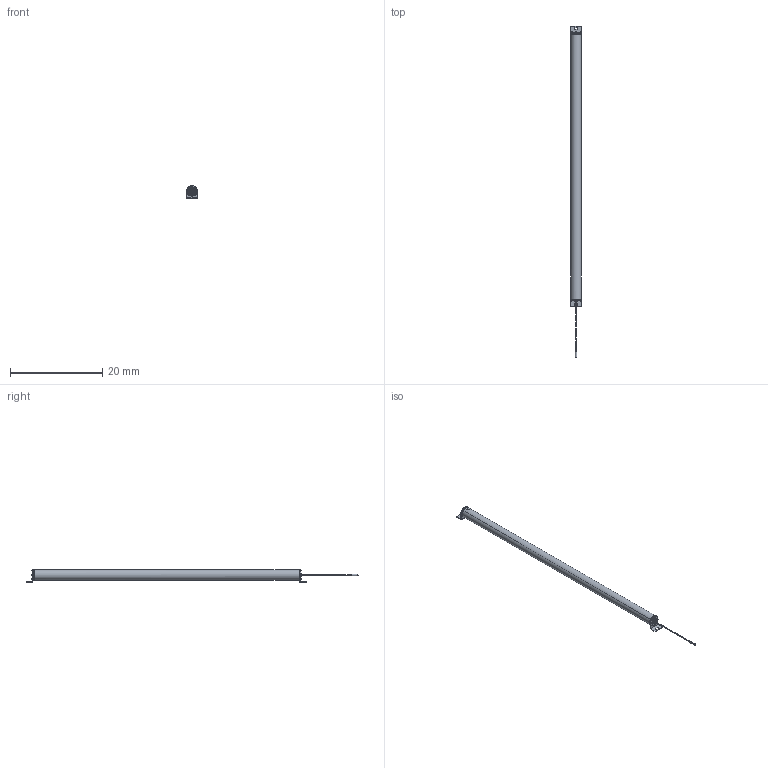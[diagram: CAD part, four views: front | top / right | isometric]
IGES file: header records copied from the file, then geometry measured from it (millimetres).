
Start section:  Autodesk DirectConnect version 7.0.27.0 ---- IGES version 5.3
Global section: file name: C:\ACADFILES\SS_PYLONS\CUSTOMER_FILES\SS-56-PYLON_3D_SMB_PT.iges; native system: Autodesk DirectConnect 7.0.27.0; preprocessor: 7.0.27.0; author: ENGINEERMAIN; organization: Unknown; date: 20150810.125717; units: millimetre
Bounding box: 2.26 x 72.01 x 2.75 mm (x, y, z)
Surface area: 1678.1 mm2 (no closed solid volume)
Topology: 0 solids, 0 shells, 772 faces, 3944 edges, 3944 vertices
Faces by surface type: bspline 772
